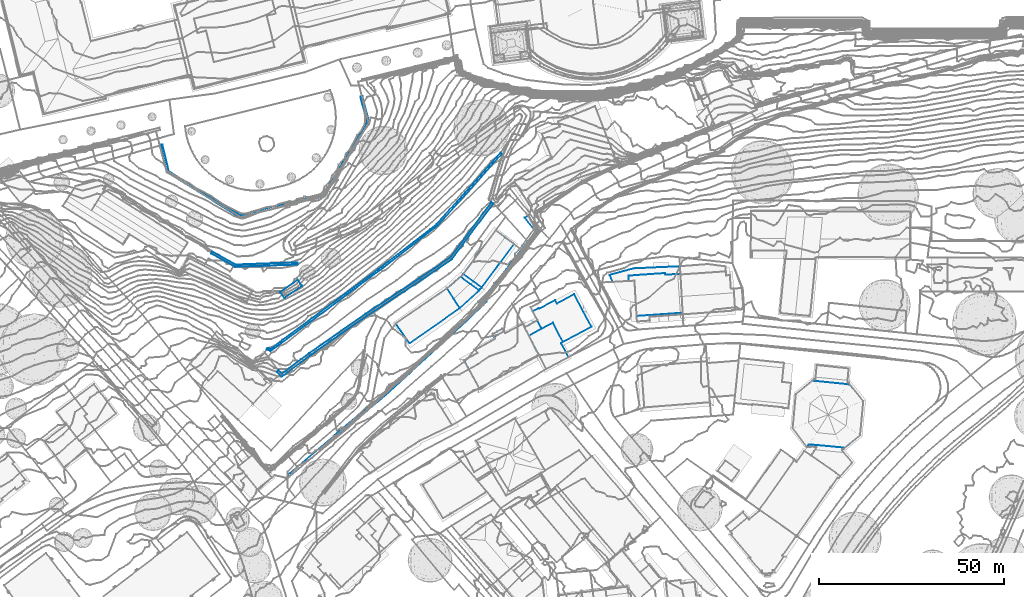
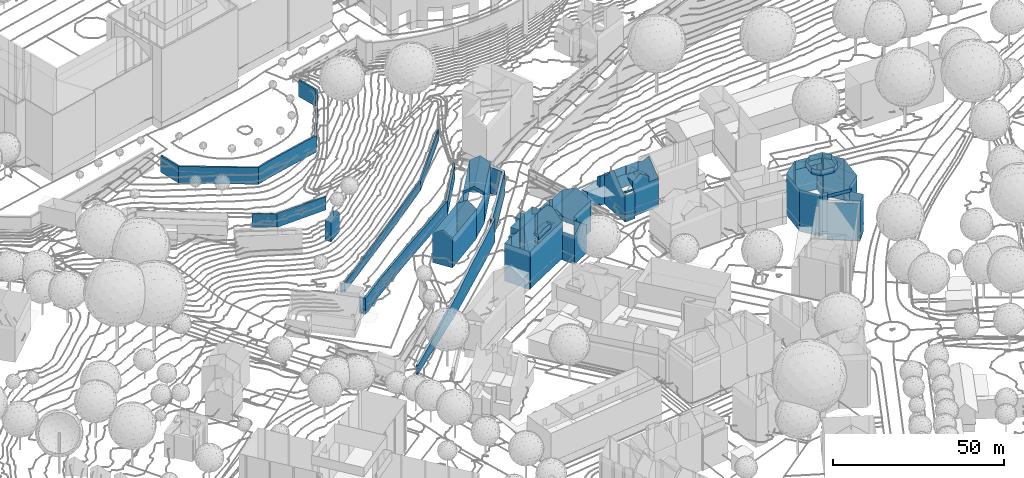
# Not in any storey, part 46 of 494: 12 walls.
"""IFC2X3 model written with IfcOpenShell, lengths in metres."""

import ifcopenshell
import ifcopenshell.guid

model = None  # the IFC model being written
_history = None  # IfcOwnerHistory: only IFC2X3 demands one
_inside = {}  # id of a spatial element -> (the spatial element, [elements in it])
_under = {}  # id of a project, library or spatial element -> (it, [spatial elements below it])
_declared = {}  # id of a project -> (the project, [libraries it declares])
_typed = {}  # id of a type object -> (the type object, [elements of that type])
_made_of = {}  # id of a material, layer set ... -> (it, [elements and type objects made of it])


def new_model(schema):
    """Start an empty IFC model of exactly this schema.

    Asked for "IFC4X3", IfcOpenShell would pick the latest addendum, in which some entities
    have other attributes; the version numbers below select the first issue.
    IFC2X3 requires an IfcOwnerHistory on every rooted entity: one is made here for all.
    """
    global model, _history
    if schema == "IFC4X3":
        model = ifcopenshell.file(schema_version=(4, 3, 0, 0))
    else:
        model = ifcopenshell.file(schema=schema)
    _inside.clear()
    _under.clear()
    _declared.clear()
    _typed.clear()
    _made_of.clear()
    _history = None
    if model.schema == "IFC2X3":
        org = make("IfcOrganization", Name="unknown")
        user = make(
            "IfcPersonAndOrganization",
            ThePerson=make("IfcPerson", FamilyName="unknown"),
            TheOrganization=org,
        )
        app = make(
            "IfcApplication",
            ApplicationDeveloper=org,
            Version="unknown",
            ApplicationFullName="unknown",
            ApplicationIdentifier="unknown",
        )
        _history = make(
            "IfcOwnerHistory",
            OwningUser=user,
            OwningApplication=app,
            ChangeAction="ADDED",
            CreationDate=0,
        )
    return model


def make(cls, **values):
    """One entity of the class cls with the attributes given. An attribute that is None is left unset."""
    return model.create_entity(
        cls, **{name: value for name, value in values.items() if value is not None}
    )


def rooted(cls, **values):
    """An entity with a GlobalId (a new one), such as an element, a storey or a relation."""
    return make(cls, GlobalId=ifcopenshell.guid.new(), OwnerHistory=_history, **values)


def si_unit(unit_type, name, prefix=None):
    """IfcSIUnit, for example si_unit("LENGTHUNIT", "METRE", prefix="MILLI")."""
    return make("IfcSIUnit", UnitType=unit_type, Prefix=prefix, Name=name)


def assignment(units):
    """IfcUnitAssignment: the units of a project."""
    return None if units is None else make("IfcUnitAssignment", Units=units)


def point(xyz):
    """IfcCartesianPoint."""
    return None if xyz is None else make("IfcCartesianPoint", Coordinates=xyz)


def direction(xyz):
    """IfcDirection."""
    return None if xyz is None else make("IfcDirection", DirectionRatios=xyz)


def frame(location, z_axis=None, x_axis=None):
    """IfcAxis2Placement3D, a coordinate frame: its origin and axes. An axis left out is left unset."""
    return make(
        "IfcAxis2Placement3D",
        Location=point(location),
        Axis=direction(z_axis),
        RefDirection=direction(x_axis),
    )


def origin_with_axes():
    """The frame at (0, 0, 0) with the z axis (0, 0, 1) and the x axis (1, 0, 0) written out."""
    return frame((0.0, 0.0, 0.0), z_axis=(0.0, 0.0, 1.0), x_axis=(1.0, 0.0, 0.0))


def place(relative_to, where):
    """IfcLocalPlacement: puts the frame where relative to a parent placement (None: the world)."""
    return make(
        "IfcLocalPlacement", PlacementRelTo=relative_to, RelativePlacement=where
    )


def context(
    kind, dimensions, precision=None, world=None, true_north=None, identifier=None
):
    """IfcGeometricRepresentationContext, for example the 3D "Model" context."""
    return make(
        "IfcGeometricRepresentationContext",
        ContextIdentifier=identifier,
        ContextType=kind,
        CoordinateSpaceDimension=dimensions,
        Precision=precision,
        WorldCoordinateSystem=world,
        TrueNorth=true_north,
    )


def subcontext(parent, identifier, kind, view, scale=None):
    """IfcGeometricRepresentationSubContext, for example "Body" below "Model"."""
    return make(
        "IfcGeometricRepresentationSubContext",
        ContextIdentifier=identifier,
        ContextType=kind,
        ParentContext=parent,
        TargetScale=scale,
        TargetView=view,
    )


def project(units=None, contexts=None):
    """IfcProject with its units and contexts."""
    return rooted(
        "IfcProject",
        Name="project",
        RepresentationContexts=contexts,
        UnitsInContext=assignment(units),
    )


def faces_of(points, faces, orient=None, outer=None):
    """IfcFace entities. A face is a list of loops; a loop is a list of indices into points, from 0.

    orient and outer hold one flag for each loop. By default every Orientation is true, the
    first loop of a face is its IfcFaceOuterBound and the others are IfcFaceBound.
    """
    made = []
    for i, loops in enumerate(faces):
        bounds = []
        for j, loop in enumerate(loops):
            is_outer = j == 0 if outer is None else outer[i][j]
            bounds.append(
                make(
                    "IfcFaceOuterBound" if is_outer else "IfcFaceBound",
                    Bound=make("IfcPolyLoop", Polygon=[points[k] for k in loop]),
                    Orientation=True if orient is None else orient[i][j],
                )
            )
        made.append(make("IfcFace", Bounds=bounds))
    return made


def faceted_brep(points, faces, orient=None, outer=None, voids=None):
    """IfcFacetedBrep: a solid bounded by flat faces; with voids (closed shells), ...WithVoids."""
    shared = [point(p) for p in points]
    hull = make("IfcClosedShell", CfsFaces=faces_of(shared, faces, orient, outer))
    if voids is None:
        return make("IfcFacetedBrep", Outer=hull)
    return make(
        "IfcFacetedBrepWithVoids",
        Outer=hull,
        Voids=[
            make(cls, CfsFaces=faces_of(shared, fs, o, b)) for cls, fs, o, b in voids
        ],
    )


def shape(context_of_items, identifier, shape_type, items):
    """IfcShapeRepresentation: the items that make up one representation, for example the "Body"."""
    return make(
        "IfcShapeRepresentation",
        ContextOfItems=context_of_items,
        RepresentationIdentifier=identifier,
        RepresentationType=shape_type,
        Items=items,
    )


def made_of(thing, what):
    """Note that an element or type object is made of a material, layer set ...; save() writes the relation."""
    if what is not None:
        _made_of.setdefault(what.id(), (what, []))[1].append(thing)
    return thing


def element(
    cls,
    number,
    at=None,
    inside=None,
    cuts=None,
    type_object=None,
    material=None,
    context=None,
    identifier="Body",
    shape_type=None,
    held_by="IfcProductDefinitionShape",
    body=None,
    shapes=None,
    **own,
):
    """One element of the class cls, such as IfcWall. Its Tag is "e" and its number.

    at: its placement. inside: the storey or other place that contains it. cuts: it is an
    opening in that element (IfcRelVoidsElement). A single representation is given by context,
    identifier, shape_type and body (its items); several are given by shapes. held_by: the class
    of the entity that holds the representations. save() writes the other relations.
    """
    e = rooted(cls, Tag="e%d" % number, ObjectPlacement=at, **own)
    if body is not None:
        shapes = [shape(context, identifier, shape_type, body)]
    if shapes is not None:
        e.Representation = make(held_by, Representations=shapes)
    if inside is not None:
        _inside.setdefault(inside.id(), (inside, []))[1].append(e)
    if cuts is not None:
        rooted(
            "IfcRelVoidsElement", RelatingBuildingElement=cuts, RelatedOpeningElement=e
        )
    if type_object is not None:
        _typed.setdefault(type_object.id(), (type_object, []))[1].append(e)
    return made_of(e, material)


def aggregate(whole, parts):
    """IfcRelAggregates: a whole, such as a stair, and the parts it consists of."""
    return rooted("IfcRelAggregates", RelatingObject=whole, RelatedObjects=parts)


def save(model, path):
    """Write the relations noted so far, then the file.

    IfcRelAggregates (storeys below a building ...), IfcRelContainedInSpatialStructure (elements
    in a storey), IfcRelDefinesByType, IfcRelAssociatesMaterial and IfcRelDeclares: one each for
    every whole, place, type object, material and project.
    """
    for whole, parts in _under.values():
        aggregate(whole, parts)
    for where, things in _inside.values():
        rooted(
            "IfcRelContainedInSpatialStructure",
            RelatedElements=things,
            RelatingStructure=where,
        )
    for kind, things in _typed.values():
        rooted("IfcRelDefinesByType", RelatedObjects=things, RelatingType=kind)
    for what, things in _made_of.values():
        rooted("IfcRelAssociatesMaterial", RelatedObjects=things, RelatingMaterial=what)
    for by, libraries in _declared.values():
        rooted("IfcRelDeclares", RelatingContext=by, RelatedDefinitions=libraries)
    model.write(path)


model = new_model("IFC2X3")

# Units and contexts
model_context = context("Model", 3, precision=1e-05, world=origin_with_axes())
body_context = subcontext(model_context, "Body", "Model", "MODEL_VIEW")
ifc_project = project(units=[si_unit("AREAUNIT", "SQUARE_METRE"), si_unit("LENGTHUNIT", "METRE")], contexts=[model_context])

# Walls
wall_1_placement = place(None, frame((211.8297320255, 101.9383160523, 526.7541), z_axis=(0.0, 0.0, 1.0), x_axis=(1.0, 0.0, 0.0)))
element("IfcWall", 1, at=wall_1_placement, Name="Wall 6", context=body_context, shape_type="Brep", body=[
    faceted_brep([(226.2320000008, 193.1942999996, 5.6565), (243.0140000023, 193.7958999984, 5.4645), (226.2320000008, 193.1942999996, 0.835), (226.0840000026, 192.5819999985, 5.6565), (219.6790000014, 196.1660000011, 5.6565), (226.0840000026, 192.5819999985, 0.835), (219.9750000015, 196.6953000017, 5.6565), (219.9750000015, 196.6953000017, 0.835), (219.6790000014, 196.1660000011, 0.835), (243.0360000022, 193.1904000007, 5.4645), (243.0360000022, 193.1904000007, 0.835), (243.0140000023, 193.7958999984, 0.835)], [[[0, 1, 2]], [[3, 4, 5]], [[6, 0, 7]], [[4, 6, 8]], [[9, 5, 10]], [[1, 9, 11]], [[1, 11, 2]], [[4, 8, 5]], [[0, 2, 7]], [[6, 7, 8]], [[3, 5, 9]], [[9, 10, 11]]]),
])
wall_2_placement = place(None, frame((211.8297320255, 101.9383160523, 526.7541), z_axis=(0.0, 0.0, 1.0), x_axis=(1.0, 0.0, 0.0)))
element("IfcWall", 2, at=wall_2_placement, Name="Wall 8", context=body_context, shape_type="Brep", body=[
    faceted_brep([(238.8200000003, 163.7226000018, -10.8929), (246.1209999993, 169.2197000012, -10.9639), (238.8200000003, 163.7226000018, -16.5874), (237.9189999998, 164.6748000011, -10.8929), (237.9189999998, 164.6748000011, -16.5874), (237.4409999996, 164.2217000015, -10.8929), (237.4409999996, 164.2217000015, -16.5874), (238.7470000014, 162.8436999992, -10.8929), (238.7470000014, 162.8436999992, -16.5874), (246.507000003, 168.6854999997, -10.9639), (246.507000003, 168.6854999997, -16.5874), (261.4940000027, 179.8867000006, -11.2489), (246.1209999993, 169.2197000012, -16.5874), (261.8630000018, 179.3418000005, -11.2489), (261.8630000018, 179.3418000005, -16.5874), (276.0890000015, 189.5351000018, -11.3909), (261.4940000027, 179.8867000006, -16.5874), (276.4550000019, 188.9882999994, -11.3909), (276.4550000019, 188.9882999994, -16.5874), (284.3350000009, 195.1387000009, -11.3909), (276.0890000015, 189.5351000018, -16.5874), (284.7970000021, 194.6561999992, -11.3909), (284.7970000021, 194.6561999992, -16.5874), (295.9990000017, 209.7382999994, -10.9639), (295.9990000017, 209.7382999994, -16.5874), (295.4700000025, 210.1308000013, -10.9639), (295.4700000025, 210.1308000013, -16.5874), (284.3350000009, 195.1387000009, -16.5874)], [[[0, 1, 2]], [[3, 0, 4]], [[5, 3, 6]], [[7, 5, 8]], [[9, 8, 10]], [[1, 11, 12]], [[13, 10, 14]], [[11, 15, 16]], [[17, 14, 18]], [[15, 19, 20]], [[21, 17, 22]], [[23, 21, 24]], [[25, 23, 26]], [[19, 26, 27]], [[1, 12, 2]], [[0, 2, 4]], [[3, 4, 6]], [[5, 6, 8]], [[7, 8, 9]], [[11, 16, 12]], [[9, 10, 13]], [[15, 20, 16]], [[13, 14, 17]], [[19, 27, 20]], [[17, 18, 22]], [[21, 22, 24]], [[23, 24, 26]], [[25, 26, 19]]]),
])
wall_3_placement = place(None, frame((211.8297320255, 101.9383160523, 526.7541), z_axis=(0.0, 0.0, 1.0), x_axis=(1.0, 0.0, 0.0)))
element("IfcWall", 3, at=wall_3_placement, Name="Wall 9", context=body_context, shape_type="Brep", body=[
    faceted_brep([(294.1209999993, 183.1347999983, -14.0297), (288.2660000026, 177.4453000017, -14.2136), (294.1209999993, 183.1347000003, -22.4069), (277.4560000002, 167.5439000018, -14.7666), (288.2660000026, 177.4453000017, -22.4069), (277.0140000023, 168.0282999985, -14.7666), (287.8159999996, 177.9228000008, -22.4069), (277.0140000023, 168.0282999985, -22.4069), (266.4130000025, 158.3603000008, -16.1475), (266.4130000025, 158.3603000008, -22.4069), (266.8460000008, 157.8671999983, -16.1475), (277.4560000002, 167.5439000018, -22.4069), (240.8580000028, 135.8594000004, -19.0262), (240.4620000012, 136.3828000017, -22.4069), (240.8580000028, 135.8594000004, -22.4069), (299.9330000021, 191.4316000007, -13.8457), (293.6009999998, 183.6112999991, -14.0297), (299.9330000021, 191.4316000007, -22.4068), (292.7030000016, 183.5439000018, -14.0297), (299.4210000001, 191.8407999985, -22.4068), (292.7030000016, 183.5439000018, -22.4069), (287.8159999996, 177.9228000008, -14.2136), (293.1660000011, 183.120099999, -22.4069), (293.6009999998, 183.6112999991, -22.4069), (293.1660000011, 183.120099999, -14.0297), (307.4979999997, 202.1981999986, -13.5707), (304.5190000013, 205.878899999, -22.4068), (307.4979999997, 202.1981999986, -22.4068), (305.4220000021, 206.5194999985, -12.6478), (308.4230000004, 202.2080000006, -13.5687), (305.4220000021, 206.5194999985, -22.4068), (304.5190000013, 205.878899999, -12.7038), (308.4230000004, 202.2080000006, -22.4068), (299.4210000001, 191.8407999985, -13.8457), (254.4750000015, 148.25, -22.4069), (254.4750000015, 148.25, -17.8053), (240.4620000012, 136.3828000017, -19.0232), (266.8460000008, 157.8671999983, -22.4069), (254.8990000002, 147.7490000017, -22.4069), (254.8990000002, 147.7490000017, -17.8053)], [[[0, 1, 2]], [[1, 3, 4]], [[5, 6, 7]], [[8, 7, 9]], [[3, 10, 11]], [[12, 13, 14]], [[15, 16, 17]], [[18, 19, 20]], [[21, 22, 6]], [[16, 0, 23]], [[24, 18, 22]], [[25, 26, 27]], [[28, 29, 30]], [[31, 30, 26]], [[29, 15, 32]], [[33, 27, 19]], [[34, 13, 35]], [[35, 13, 36]], [[8, 9, 34]], [[8, 34, 35]], [[37, 10, 38]], [[38, 10, 39]], [[39, 14, 38]], [[14, 39, 12]], [[1, 4, 2]], [[3, 11, 4]], [[21, 6, 5]], [[5, 7, 8]], [[10, 37, 11]], [[36, 13, 12]], [[16, 23, 17]], [[33, 19, 18]], [[24, 22, 21]], [[0, 2, 23]], [[18, 20, 22]], [[31, 26, 25]], [[29, 32, 30]], [[28, 30, 31]], [[15, 17, 32]], [[25, 27, 33]]]),
])
wall_4_placement = place(None, frame((211.8297320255, 101.9383160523, 526.7541), z_axis=(0.0, 0.0, 1.0), x_axis=(1.0, 0.0, 0.0)))
element("IfcWall", 4, at=wall_4_placement, Name="Wall 12", context=body_context, shape_type="Brep", body=[
    faceted_brep([(235.6860000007, 170.3574000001, -8.7491), (264.8280000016, 191.9404000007, -11.8918), (235.6860000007, 170.3574000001, -11.8918), (235.7670000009, 169.8007999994, -8.7491), (234.7090000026, 170.1854999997, -8.7491), (235.7670000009, 169.8007999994, -11.8918), (234.8790000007, 170.6504000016, -8.7491), (234.8790000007, 170.6504000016, -11.8918), (234.7090000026, 170.1854999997, -11.8918), (265.126000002, 191.5458999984, -8.3042), (265.126000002, 191.5458999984, -11.8918), (298.3029999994, 223.1532999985, -8.0072), (280.9480000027, 203.7412, -8.3042), (298.3029999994, 223.1532999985, -11.8918), (297.9340000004, 223.4833999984, -8.0072), (297.9340000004, 223.4833999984, -11.8918), (280.6090000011, 204.1055000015, -8.3042), (280.6090000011, 204.1055000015, -11.8918), (280.9480000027, 203.7412, -11.8918), (264.8280000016, 191.9404000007, -8.3042)], [[[0, 1, 2]], [[3, 4, 5]], [[6, 0, 7]], [[4, 6, 8]], [[9, 3, 10]], [[11, 12, 13]], [[14, 11, 15]], [[16, 15, 17]], [[12, 9, 18]], [[19, 16, 1]], [[19, 1, 0]], [[4, 8, 5]], [[0, 2, 7]], [[6, 7, 8]], [[3, 5, 10]], [[12, 18, 13]], [[11, 13, 15]], [[14, 15, 16]], [[9, 10, 18]], [[16, 17, 1]]]),
])
wall_5_placement = place(None, frame((211.8297320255, 101.9383160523, 526.7541), z_axis=(0.0, 0.0, 1.0), x_axis=(1.0, 0.0, 0.0)))
element("IfcWall", 5, at=wall_5_placement, Name="Wall 13", context=body_context, shape_type="Brep", body=[
    faceted_brep([(205.9340000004, 225.5936999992, 13.5628), (206.4830000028, 225.7226000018, 13.5628), (205.9340000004, 225.5936999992, 7.5874), (207.700000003, 218.0762000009, 13.5628), (207.700000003, 218.0762000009, 7.5874), (227.5439999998, 205.8671999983, 13.5628), (227.5439999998, 205.8671999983, 7.5874), (231.375, 207.0731999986, 13.5628), (231.375, 207.0731999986, 7.5874), (238.9260000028, 208.9228000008, 13.5628), (238.9260000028, 208.9228000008, 7.5874), (246.5879999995, 210.7558000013, 13.5628), (246.5879999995, 210.7558000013, 7.5874), (250.3399999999, 211.5986000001, 13.5628), (250.3399999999, 211.5986000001, 7.5874), (255.6390000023, 220.4023000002, 13.5628), (255.6390000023, 220.4023000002, 7.5874), (262.4620000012, 231.6669999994, 13.5628), (262.4620000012, 231.6669999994, 7.5874), (260.5860000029, 238.8203000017, 13.5628), (260.5860000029, 238.8203000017, 7.5874), (260.0400000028, 238.6777000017, 13.5628), (260.0400000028, 238.6777000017, 7.5874), (261.8560000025, 231.7558000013, 13.5628), (261.8560000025, 231.7558000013, 7.5874), (255.1559999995, 220.6933000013, 13.5628), (255.1559999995, 220.6933000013, 7.5874), (249.9810000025, 212.0956999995, 13.5628), (249.9810000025, 212.0956999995, 7.5874), (246.4610000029, 211.3055999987, 13.5628), (246.4610000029, 211.3057000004, 7.5874), (238.7939999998, 209.4706999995, 13.5628), (238.7939999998, 209.4706999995, 7.5874), (231.2230000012, 207.6162, 13.5628), (231.2230000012, 207.6162, 7.5874), (227.620000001, 206.4824000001, 13.5628), (227.620000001, 206.4824000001, 7.5874), (208.1950000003, 218.4345999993, 13.5628), (208.1950000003, 218.4345999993, 7.5874), (206.4830000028, 225.7226000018, 7.5874)], [[[0, 1, 2]], [[3, 0, 4]], [[5, 3, 6]], [[7, 5, 8]], [[9, 7, 10]], [[11, 9, 12]], [[13, 11, 14]], [[15, 13, 16]], [[17, 15, 18]], [[19, 17, 20]], [[21, 19, 22]], [[23, 21, 24]], [[25, 23, 26]], [[27, 25, 28]], [[29, 27, 30]], [[31, 29, 32]], [[33, 31, 34]], [[35, 33, 36]], [[37, 35, 38]], [[1, 37, 39]], [[1, 39, 2]], [[0, 2, 4]], [[3, 4, 6]], [[5, 6, 8]], [[7, 8, 10]], [[9, 10, 12]], [[11, 12, 14]], [[13, 14, 16]], [[15, 16, 18]], [[17, 18, 20]], [[19, 20, 22]], [[21, 22, 24]], [[23, 24, 26]], [[25, 26, 28]], [[27, 28, 30]], [[29, 30, 32]], [[31, 32, 34]], [[33, 34, 36]], [[35, 36, 38]], [[37, 38, 39]]]),
])
wall_6_placement = place(None, frame((450.1807320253, 287.7430160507, 522.8345), z_axis=(0.0, 0.0, 1.0), x_axis=(1.0, 0.0, 0.0)))
element("IfcWall", 6, at=wall_6_placement, Name="Wall 0", context=body_context, shape_type="Brep", body=[
    faceted_brep([(4.745000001, 3.2754000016, 6.9984), (5.8729999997, 1.6406000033, 6.9984), (4.745000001, 3.2754000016, 0.0), (0.0, 0.0, 6.9984), (0.0, 0.0, 0.0), (1.120000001, -1.6415999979, 6.9984), (1.120000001, -1.6415999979, 0.0), (5.8729999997, 1.6406000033, 0.0)], [[[0, 1, 2]], [[3, 0, 4]], [[5, 3, 6]], [[1, 5, 7]], [[1, 7, 2]], [[0, 2, 4]], [[3, 4, 6]], [[5, 6, 7]]]),
])
wall_7_placement = place(None, frame((495.292732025, 288.7264160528, 509.5088), z_axis=(0.0, 0.0, 1.0), x_axis=(1.0, 0.0, 0.0)))
element("IfcWall", 7, at=wall_7_placement, Name="Wall 0", context=body_context, shape_type="Brep", body=[
    faceted_brep([(13.1390000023, 15.6396000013, 11.3829), (15.6520000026, 13.7753999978, 13.2887), (18.0950000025, 11.9628999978, 11.3319), (18.0950000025, 11.9628999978, 0.033), (13.1390000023, 15.6396000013, 0.033), (8.6700000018, -0.5927999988, 10.19), (8.6700000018, -0.5927999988, 11.4649), (6.381000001, 1.0790999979, 12.1268), (6.381000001, 1.0790999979, 13.2887), (6.1500000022, 1.2479999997, 12.3218), (3.643000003, 3.0780999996, 11.2239), (3.643000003, 3.0780999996, 10.244), (9.0329999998, -0.2578999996, 0.0), (9.0329999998, -0.2578000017, 11.4039), (3.4780000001, -5.3946000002, 10.221), (3.4780000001, -5.3946000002, 0.0), (4.3840000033, 3.8319999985, 0.0), (4.1290000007, 3.4891999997, 0.0), (4.3840000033, 3.8319999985, 0.033), (4.1290000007, 3.4891999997, 11.3149), (0.0, 0.0, 0.0), (0.0, 0.0, 10.078), (9.3670000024, 0.1933000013, 0.033), (9.3670000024, 0.1933000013, 0.0), (1.813000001, -2.8125, 12.3218), (6.9270000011, 1.9765000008, 0.033)], [[[0, 1, 2]], [[3, 4, 0]], [[3, 0, 2]], [[5, 6, 7]], [[7, 6, 8]], [[9, 8, 10]], [[8, 9, 7]], [[11, 9, 10]], [[12, 13, 5]], [[5, 13, 6]], [[12, 5, 14]], [[14, 15, 12]], [[16, 17, 18]], [[18, 17, 19]], [[18, 0, 4]], [[0, 18, 19]], [[20, 21, 17]], [[17, 21, 11]], [[11, 10, 19]], [[11, 19, 17]], [[3, 2, 22]], [[22, 2, 13]], [[22, 12, 23]], [[12, 22, 13]], [[20, 15, 14]], [[14, 24, 21]], [[14, 21, 20]], [[16, 18, 25]], [[25, 23, 16]], [[23, 25, 22]]]),
])
wall_8_placement = place(None, frame((481.4457320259, 279.2078160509, 509.1578), z_axis=(0.0, 0.0, 1.0), x_axis=(1.0, 0.0, 0.0)))
element("IfcWall", 8, at=wall_8_placement, Name="Wall 0", context=body_context, shape_type="Brep", body=[
    faceted_brep([(3.6920000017, -5.3563999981, 0.0), (17.3249999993, 4.1240000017, 10.531), (3.6920000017, -5.3563999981, 10.606), (17.3249999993, 4.1240000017, 0.0), (15.6600000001, 6.7061000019, 12.6728), (15.6600000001, 6.7061000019, 0.0), (2.0109999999, -2.9179999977, 12.6728), (0.0, 0.0, 0.0), (0.7540000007, -1.0936999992, 11.2309), (0.0, 0.0, 10.366), (13.8469999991, 9.5186000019, 10.497), (13.8469999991, 9.5186000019, 0.0)], [[[0, 1, 2]], [[1, 0, 3]], [[4, 3, 5]], [[3, 4, 1]], [[0, 2, 6]], [[6, 7, 0]], [[6, 8, 7]], [[8, 9, 7]], [[5, 10, 4]], [[5, 11, 10]], [[7, 10, 11]], [[10, 7, 9]]]),
])
wall_9_placement = place(None, frame((499.9197320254, 269.244916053, 502.2044), z_axis=(0.0, 0.0, 1.0), x_axis=(1.0, 0.0, 0.0)))
element("IfcWall", 9, at=wall_9_placement, Name="Wall 0", context=body_context, shape_type="Brep", body=[
    faceted_brep([(7.7820000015, 7.0273999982, 15.5725), (7.8949999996, 7.1777999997, 15.5725), (7.7820000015, 7.0273999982, 0.4), (10.3330000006, 8.5137000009, 15.5725), (10.4600000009, 8.5225000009, 0.4), (10.3330000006, 8.5137000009, 0.4), (16.5360000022, 9.0126999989, 0.0), (16.5360000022, 9.0126999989, 13.4687), (16.3690000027, 8.9219000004, 0.0), (16.3690000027, 8.9219000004, 10.1021), (16.3690000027, 8.9219000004, 13.4687), (16.3690000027, 8.9219000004, 6.7344), (16.3690000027, 8.9219000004, 3.3667), (16.0329999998, 9.9794999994, 12.8848), (16.0329999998, 9.9794999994, 9.5171), (0.0, 0.0, 6.6864), (3.6400000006, 1.9873000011, 0.0), (0.0, 0.0, 0.0), (3.6400000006, 1.9873000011, 3.3437), (0.0, 0.0, 13.3738), (3.6400000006, 1.9873000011, 8.3582), (4.2060000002, -7.6269000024, 9.9341), (4.6339999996, -7.3885999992, 13.2487), (4.2060000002, -7.6269000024, 13.2458), (4.2060000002, -7.6269000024, 6.6214), (4.6339999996, -7.3885999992, 0.0), (4.2060000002, -7.6269000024, 0.0), (4.2060000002, -7.6269000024, 3.3087), (4.5670000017, -7.2655999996, 0.0), (4.5670000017, -7.2655999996, 13.3537), (20.3120000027, 1.3476999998, 13.3597), (16.3729999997, -0.807599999, 13.3577), (20.3120000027, 1.3476999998, 10.0191), (20.3120000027, 1.3476999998, 6.6794), (20.3120000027, 1.3476999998, 3.3397), (20.3120000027, 1.3476999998, 0.0), (15.313000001, -0.7479999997, 15.6525), (15.313000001, -0.7479999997, 13.8337), (14.569000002, 0.6152999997, 15.6525), (9.2140000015, -4.0820000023, 15.6545), (8.4680000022, -2.7177999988, 15.6545), (9.2140000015, -4.0820000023, 13.8317), (14.7790000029, 9.2998000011, 12.8818), (14.7790000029, 9.2998000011, 15.6255), (15.4880000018, 8.0029999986, 13.6747), (15.4880000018, 8.0029999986, 15.6255), (16.2340000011, 6.6358000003, 15.6255), (11.1229999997, 7.3193999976, 15.6535), (14.6449999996, 9.2276000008, 15.6585), (11.1229999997, 7.3193999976, 0.0), (16.0329999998, 9.9794999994, 0.0), (10.8530000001, 7.808600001, 0.4), (8.1720000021, 6.3427999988, 0.0), (8.1720000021, 6.3427999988, 0.4), (3.3520000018, 2.5077999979, 12.9308), (3.132000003, 2.9063000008, 12.9288), (3.6400000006, 1.9873000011, 13.3738), (3.132000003, 2.9063000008, 0.0), (3.3520000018, 2.5077999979, 0.0), (3.2369999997, 2.9638999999, 0.0), (4.1110000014, 3.4433999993, 12.9888), (8.4600000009, 5.8359999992, 0.0), (4.2719999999, 3.5331999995, 15.6645), (4.1110000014, 3.4433999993, 15.6255), (8.4600000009, 5.8359999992, 15.6615), (3.2369999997, 2.9638999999, 12.9908), (16.5460000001, 8.5821000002, 13.6747), (17.8159999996, 6.1415999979, 17.1194), (18.7440000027, 4.3603999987, 17.1594), (20.1170000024, 1.7226999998, 13.6747), (17.8159999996, 6.1415999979, 0.0), (18.7440000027, 4.3603999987, 0.0), (4.0800000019, -7.3993999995, 0.0), (0.0260000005, -0.0469000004, 13.4137), (4.0800000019, -7.3993999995, 13.4397), (13.2960000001, -1.8515000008, 13.8327), (11.1680000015, -3.0146000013, 13.8327), (13.2960000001, -1.8515000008, 15.8995), (11.1680000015, -3.0146000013, 15.8995), (10.4600000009, 8.5225000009, 15.5725), (10.8540000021, 7.808600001, 0.0), (10.7530000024, 7.9912, 15.6455), (11.1090000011, 7.3447000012, 15.6445), (8.4400000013, 5.871100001, 15.6485), (8.0720000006, 6.5175999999, 15.6465), (5.5560000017, 0.8007999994, 15.6255), (4.8090000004, 2.1679999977, 15.6255), (4.8090000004, 2.1679999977, 13.6747), (4.4690000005, 2.7881000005, 13.5107), (4.7039999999, 2.3583999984, 13.5117), (4.620000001, 2.5117000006, 15.6255), (4.3800000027, 2.9512000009, 15.6255), (8.2200000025, 7.3554999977, 15.5935), (8.9860000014, 7.7753999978, 0.4), (7.8949999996, 7.1777999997, 0.4), (9.0650000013, 7.8183999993, 15.6205), (9.9110000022, 8.2831999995, 15.5995), (9.9110000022, 8.2831999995, 0.4)], [[[0, 1, 2]], [[3, 4, 5]], [[6, 7, 8]], [[9, 7, 10]], [[11, 7, 9]], [[12, 8, 7]], [[13, 6, 14]], [[13, 7, 6]], [[15, 16, 17]], [[18, 19, 20]], [[21, 22, 23]], [[24, 22, 21]], [[25, 22, 26]], [[27, 26, 22]], [[28, 29, 25]], [[22, 25, 29]], [[30, 31, 32]], [[32, 31, 33]], [[34, 28, 35]], [[28, 34, 31]], [[28, 31, 29]], [[36, 37, 38]], [[39, 40, 41]], [[42, 43, 44]], [[44, 45, 46]], [[45, 44, 43]], [[42, 47, 48]], [[42, 49, 47]], [[48, 43, 42]], [[42, 13, 14]], [[50, 49, 14]], [[49, 42, 14]], [[51, 52, 53]], [[54, 55, 20]], [[20, 56, 54]], [[18, 20, 57]], [[58, 16, 18]], [[57, 58, 18]], [[20, 55, 57]], [[59, 57, 60]], [[60, 61, 59]], [[60, 57, 55]], [[62, 60, 63]], [[60, 62, 64]], [[60, 64, 61]], [[65, 60, 55]], [[66, 67, 68]], [[66, 68, 69]], [[69, 32, 9]], [[10, 66, 9]], [[69, 9, 66]], [[9, 32, 11]], [[11, 33, 12]], [[32, 69, 30]], [[33, 70, 12]], [[33, 34, 70]], [[34, 71, 70]], [[71, 34, 35]], [[70, 8, 12]], [[11, 32, 33]], [[19, 27, 24]], [[15, 72, 27]], [[72, 26, 27]], [[15, 17, 72]], [[24, 21, 73]], [[74, 73, 21]], [[73, 19, 24]], [[27, 19, 15]], [[74, 21, 23]], [[75, 36, 76]], [[37, 36, 75]], [[36, 77, 76]], [[78, 39, 41]], [[76, 77, 41]], [[41, 77, 78]], [[51, 4, 79]], [[80, 51, 49]], [[79, 81, 49]], [[49, 82, 47]], [[82, 49, 81]], [[79, 49, 51]], [[83, 84, 53]], [[64, 83, 61]], [[84, 0, 53]], [[61, 53, 52]], [[53, 61, 83]], [[2, 53, 0]], [[85, 86, 87]], [[87, 88, 89]], [[87, 86, 90]], [[91, 63, 88]], [[91, 88, 87]], [[88, 63, 60]], [[91, 87, 90]], [[1, 92, 93]], [[1, 93, 94]], [[92, 95, 93]], [[95, 96, 5]], [[95, 5, 97]], [[5, 96, 3]], [[95, 97, 93]], [[1, 94, 2]], [[79, 4, 3]], [[11, 12, 7]], [[50, 14, 6]], [[19, 16, 15]], [[56, 20, 19]], [[16, 19, 18]], [[24, 27, 22]], [[31, 34, 33]], [[80, 52, 51]]]),
])
wall_10_placement = place(None, frame((516.2887320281, 278.1668160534, 502.5014), z_axis=(0.0, 0.0, 1.0), x_axis=(1.0, 0.0, 0.0)))
element("IfcWall", 10, at=wall_10_placement, Name="Wall 0", context=body_context, shape_type="Brep", body=[
    faceted_brep([(10.2819999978, -5.0225000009, 10.051), (9.3259999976, -5.5234000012, 10.051), (10.2819999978, -5.0225000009, 9.2251), (13.4129999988, 8.9375, 8.0422), (8.7839999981, 6.4756000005, -0.154), (13.4129999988, 8.9375, 10.781), (13.4129999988, 8.9375, 5.3045), (8.3099999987, 7.3682000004, -0.154), (8.3099999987, 7.3682000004, 10.222), (3.8789999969, 5.0106999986, 10.239), (3.8789999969, 5.0106999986, -0.154), (3.7859999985, 5.1845999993, 10.126), (3.7859999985, 5.1845999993, -0.154), (2.1789999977, 4.365199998, 10.115), (2.1789999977, 4.365199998, -0.154), (4.3559999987, -1.4414000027, 11.7619), (1.5229999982, -2.9248000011, 9.946), (1.5229999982, -2.9248000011, 9.3941), (4.618999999, -0.379900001, -0.154), (4.618999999, -0.379900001, 0.0), (4.4609999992, -0.0459000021, 0.0), (4.4599999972, -0.0439000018, -0.154), (3.3990000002, 1.8612999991, 0.0), (3.3990000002, 1.8612999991, -0.154), (4.4599999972, -0.0439000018, 12.9518), (3.7729999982, 1.1884999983, 12.1458), (4.4599999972, -0.0439000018, 12.1748), (4.9689999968, -1.1201000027, 12.1548), (4.493999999, -1.3691000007, 11.8499), (4.9689999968, -1.1201000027, 11.4399), (7.6559999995, 1.2793000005, -0.154), (10.3880000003, -3.9326000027, -0.8259), (7.6559999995, 1.2793000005, -0.8259), (9.8539999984, -4.2168000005, 10.602), (9.8539999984, -4.2168000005, -0.8259), (11.9019999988, -8.0692999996, 9.2091), (11.9019999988, -8.0692999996, -0.8259), (18.0879999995, 0.1620999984, 10.636), (10.3880000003, -3.9326000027, -0.154), (18.0879999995, 0.1620999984, -0.154), (15.7559999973, 4.5341999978, 13.6317), (15.7559999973, 4.5341999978, -0.154), (13.4129999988, 8.9375, -0.154), (6.4469999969, -4.2402000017, 11.5469), (5.4629999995, -2.1631000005, 12.9348), (2.7630000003, 1.5126999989, 0.0), (0.0, 0.0, 9.9311), (3.4849999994, 1.9081999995, 4.2936), (0.0, 0.0, 0.0), (3.4849999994, 1.9081999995, -0.154), (3.4849999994, 1.9081999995, 8.7402), (2.7630000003, 1.5126999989, 11.7189), (3.3990000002, 1.8612999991, 11.7059), (3.4849999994, 1.9081999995, 11.7049), (1.1769999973, -2.2607000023, 0.0), (5.8829999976, -11.2988000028, 9.3751), (5.8829999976, -11.2988000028, -0.8259), (1.1769999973, -2.2607000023, -0.8259), (8.8449999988, -9.7090000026, 11.8638), (8.8449999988, -9.7090000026, -0.8259), (4.1030000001, -0.6621000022, 11.8639), (4.1219999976, -0.6523000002, 11.8469), (3.9560000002, -0.7422000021, 11.7399), (4.1030000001, -0.6621000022, -0.8259), (8.7839999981, 6.4756000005, 10.799)], [[[0, 1, 2]], [[3, 4, 5]], [[6, 4, 3]], [[7, 8, 4]], [[9, 8, 7]], [[10, 9, 7]], [[11, 9, 12]], [[12, 9, 10]], [[13, 12, 14]], [[15, 16, 17]], [[18, 19, 20]], [[20, 21, 18]], [[20, 22, 23]], [[20, 23, 21]], [[24, 25, 26]], [[27, 28, 29]], [[30, 31, 32]], [[33, 0, 2]], [[33, 2, 34]], [[35, 36, 34]], [[35, 34, 2]], [[37, 38, 39]], [[38, 37, 33]], [[38, 34, 31]], [[34, 38, 33]], [[5, 40, 3]], [[37, 6, 3]], [[3, 40, 37]], [[37, 39, 41]], [[42, 6, 41]], [[41, 6, 37]], [[43, 44, 27]], [[27, 24, 26]], [[24, 27, 44]], [[27, 29, 43]], [[45, 46, 47]], [[46, 45, 48]], [[45, 47, 22]], [[23, 22, 49]], [[49, 22, 47]], [[50, 46, 51]], [[50, 51, 52]], [[46, 50, 47]], [[50, 52, 53]], [[54, 55, 17]], [[55, 54, 56]], [[16, 46, 17]], [[17, 48, 54]], [[48, 17, 46]], [[54, 57, 56]], [[35, 58, 55]], [[35, 55, 59]], [[35, 59, 36]], [[59, 55, 56]], [[60, 61, 62]], [[63, 54, 18]], [[54, 63, 57]], [[19, 18, 54]], [[30, 32, 18]], [[18, 32, 63]], [[4, 64, 5]], [[42, 4, 6]], [[4, 8, 64]], [[11, 12, 13]], [[53, 13, 50]], [[47, 50, 13]], [[13, 49, 47]], [[13, 14, 49]], [[38, 31, 30]]]),
])
wall_11_placement = place(None, frame((539.2757320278, 292.3553160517, 501.0115), z_axis=(0.0, 0.0, 1.0), x_axis=(1.0, 0.0, 0.0)))
element("IfcWall", 11, at=wall_11_placement, Name="Wall 0", context=body_context, shape_type="Brep", body=[
    faceted_brep([(16.3579999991, -8.6992000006, 11.3619), (16.5139999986, -10.9443999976, 11.3619), (16.5139999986, -10.9443999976, 9.5181), (10.686999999, -11.371100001, 9.4991), (10.686999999, -11.371100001, 11.8969), (10.5289999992, -9.1026000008, 11.3619), (10.4959999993, -8.620099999, 11.8969), (10.9379999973, -12.3887000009, 8.8042), (7.430999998, -12.6279999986, 8.8042), (10.9379999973, -12.3887000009, -0.6799), (7.3399999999, -11.1230999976, -0.6719), (19.8090000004, -10.2588, -0.6719), (7.3399999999, -11.1230999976, -0.6799), (15.112999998, 0.0155999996, 0.0), (19.2049999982, 0.2987999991, 0.0), (15.112999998, 0.0155999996, -0.6719), (15.0810000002, 0.4803999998, 8.8612), (15.112999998, 0.0155999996, 5.8745), (15.0810000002, 0.4803999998, 5.8745), (5.1039999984, -0.2100000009, 0.0), (15.0810000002, 0.4803999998, 0.0), (5.1039999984, -0.2100000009, -0.6719), (5.2049999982, -1.6728999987, -0.6719), (5.2049999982, -1.6728999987, 0.0), (0.0, 0.0, 5.8745), (6.5359999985, 1.754900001, 5.8745), (0.0, 0.0, 0.0), (0.9129999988, -1.9081999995, 5.8745), (0.9129999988, -1.9081999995, 0.0), (15.112999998, 0.0155999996, 9.1272), (19.2049999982, 0.2987999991, 9.1271), (15.0810000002, 0.4803999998, -0.6719), (5.1039999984, -0.2100000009, 8.8612), (5.1039999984, -0.2100000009, 5.8745), (5.2049999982, -1.6728999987, 9.6951), (5.2049999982, -1.6728999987, 5.8745), (7.7969999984, -11.6367000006, 9.4461), (7.8519999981, -12.4189999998, 8.8042), (7.7969999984, -11.6367000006, 8.8042), (10.867999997, -11.4239000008, 9.4461), (10.867999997, -11.4239000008, 8.8042), (10.862999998, -11.3583999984, 9.5001), (10.862999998, -11.3583999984, -0.6799), (13.3259999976, -11.1787, 13.7327), (19.8339999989, -10.7012000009, 9.5291), (19.8339999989, -10.7012000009, -0.6799), (11.5989999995, 1.9844000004, 5.8745), (11.5989999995, 1.9844000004, 0.0), (16.0590000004, 2.1865000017, 0.0), (19.0889999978, 2.3242000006, 5.8745), (19.0889999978, 2.3242000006, 0.0), (16.0590000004, 2.1865000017, 5.8745), (6.7630000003, -1.5878999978, 9.7081), (6.7630000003, -1.5878999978, 5.8745), (6.7630000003, -1.5878999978, -0.6719), (19.2049999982, 0.2987999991, 5.8745), (19.3189999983, -1.692400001, 10.261), (19.3189999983, -1.692400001, -0.6719), (19.5439999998, -5.629900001, -0.6719), (19.2049999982, 0.2987999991, -0.6719), (19.7060000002, -8.4677999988, 11.3619), (19.5439999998, -5.629900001, 14.5066), (19.7060000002, -8.4677999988, -0.6719), (19.8090000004, -10.2588, -0.6799), (7.4199999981, -12.4483000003, 8.8042), (7.430999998, -12.6279999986, -0.6799), (7.231999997, -9.3310999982, -0.6719), (7.231999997, -9.3310999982, 11.3619), (7.0599999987, -6.4941999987, 14.5066), (6.8220000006, -2.557599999, 10.261), (6.8220000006, -2.557599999, -0.6719), (7.0599999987, -6.4941999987, -0.6719), (6.5359999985, 1.754900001, 0.0)], [[[0, 1, 2]], [[3, 4, 5]], [[6, 5, 4]], [[7, 8, 9]], [[10, 11, 12]], [[13, 14, 15]], [[16, 17, 18]], [[19, 20, 21]], [[22, 23, 21]], [[19, 21, 23]], [[24, 25, 26]], [[27, 24, 28]], [[29, 30, 17]], [[20, 13, 31]], [[32, 16, 33]], [[34, 32, 35]], [[36, 37, 38]], [[39, 36, 40]], [[41, 40, 42]], [[40, 41, 39]], [[42, 40, 9]], [[7, 9, 40]], [[1, 43, 2]], [[44, 2, 45]], [[42, 45, 2]], [[2, 43, 41]], [[3, 41, 4]], [[41, 42, 2]], [[4, 41, 43]], [[46, 47, 25]], [[47, 46, 48]], [[49, 50, 51]], [[52, 34, 53]], [[35, 54, 53]], [[35, 53, 34]], [[35, 27, 23]], [[28, 23, 27]], [[22, 54, 23]], [[23, 54, 35]], [[55, 50, 49]], [[30, 56, 55]], [[57, 55, 58]], [[14, 57, 59]], [[57, 14, 55]], [[55, 56, 58]], [[60, 56, 61]], [[56, 60, 58]], [[60, 44, 58]], [[58, 44, 62]], [[11, 62, 44]], [[45, 63, 11]], [[11, 44, 45]], [[10, 8, 64]], [[8, 10, 65]], [[12, 65, 10]], [[10, 64, 66]], [[64, 67, 66]], [[67, 68, 69]], [[67, 69, 53]], [[53, 69, 52]], [[70, 71, 53]], [[53, 54, 70]], [[71, 67, 53]], [[67, 71, 66]], [[8, 65, 9]], [[11, 63, 12]], [[14, 59, 15]], [[29, 17, 16]], [[20, 31, 21]], [[25, 72, 26]], [[24, 26, 28]], [[30, 55, 17]], [[13, 15, 31]], [[16, 18, 33]], [[32, 33, 35]], [[36, 38, 40]], [[47, 72, 25]], [[46, 51, 48]], [[50, 48, 51]], [[14, 50, 55]]]),
])
wall_12_placement = place(None, frame((588.8407320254, 250.8973160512, 499.7896), z_axis=(0.0, 0.0, 1.0), x_axis=(1.0, 0.0, 0.0)))
element("IfcWall", 12, at=wall_12_placement, Name="Wall 0", context=body_context, shape_type="Brep", body=[
    faceted_brep([(13.7360000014, -6.4062999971, 14.4895), (13.5470000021, -6.5615999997, 13.3107), (13.7360000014, -6.4062999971, 13.3107), (13.5470000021, -6.5615999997, 14.4895), (6.0769999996, -5.8183999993, 14.4895), (6.2010000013, 13.826100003, 14.4896), (14.8599999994, 12.9668000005, 11.2529), (6.2010000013, 13.826100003, 11.2529), (0.0, 0.0, 14.8255), (0.2129999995, 2.2910000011, 14.8175), (0.0, 0.0, 0.0), (0.6390000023, 6.8729999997, 14.8025), (0.8520000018, 9.1640000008, 0.0), (0.8520000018, 9.1640000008, 14.7955), (12.8790000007, -12.995199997, 13.3106), (4.9570000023, -7.4659000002, 13.3107), (12.8790000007, -12.995099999, -0.0301), (16.0960000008, -9.3554999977, 13.3106), (16.0960000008, -9.3554999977, -0.0301), (13.5810000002, -5.2665999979, -0.0001), (13.8210000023, -5.5605999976, -0.0001), (13.5810000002, -5.2665999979, -0.0301), (4.3619999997, -4.4081999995, -0.0001), (4.3619999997, -4.4081999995, -0.0301), (3.882000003, -5.0859999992, -0.0001), (3.882000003, -5.0859999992, -0.0301), (15.1290000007, 16.1053999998, 10.237), (15.1290000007, 16.1053999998, -0.02), (6.4900000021, 17.0428999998, 10.211), (6.4900000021, 17.0428999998, -0.02), (5.3949999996, 12.8047000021, -0.02), (5.3949999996, 12.8047000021, 0.0), (5.4030000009, 12.8808000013, -0.02), (5.4030000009, 12.8808000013, 0.0), (15.2550000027, 11.8242000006, 0.0001), (15.2550000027, 11.8242000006, -0.0199), (15.2780000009, 12.0604999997, -0.02), (15.2780000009, 12.0604999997, 0.0), (6.7950000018, 0.0390000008, 17.4073), (5.2110000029, 1.9726000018, 18.2732), (5.4480000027, 1.683600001, 17.4073), (5.2110000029, 1.9726000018, 19.4041), (5.2110000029, 1.9715999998, 17.4063), (7.0270000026, -0.245099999, 17.4063), (7.0280000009, -0.245199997, 17.9062), (13.4510000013, 1.1523000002, 17.9052), (13.1730000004, 0.9248000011, 17.4063), (13.4510000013, 1.1513000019, 17.4063), (13.4510000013, 1.1523000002, 19.4031), (11.5350000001, -0.4179999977, 17.4063), (11.2349999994, -0.6631000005, 19.4031), (11.2349999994, -0.6631000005, 17.4063), (5.6290000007, 6.1797000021, 19.4031), (5.9330000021, 6.4287, 17.4063), (5.6290000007, 6.1797000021, 17.9052), (5.6290000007, 6.1797000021, 17.4063), (7.8470000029, 7.9941000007, 18.0122), (7.5659999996, 7.7646000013, 17.4073), (7.8460000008, 7.9941000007, 17.4063), (12.0540000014, 7.576100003, 19.4031), (13.8690000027, 5.3603000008, 19.4031), (12.3080000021, 7.2666000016, 17.4063), (13.8690000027, 5.3603000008, 17.9052), (13.6420000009, 5.6377000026, 17.4063), (13.8690000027, 5.3603000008, 17.4063), (19.0940000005, 7.3125, 0.0001), (19.0940000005, 7.3125, 14.8176), (18.2360000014, -1.9257999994, 14.7866), (18.2330000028, -1.9589999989, 14.7756), (18.2330000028, -1.9589999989, 0.0), (13.3599999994, -5.9365999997, 14.7805), (13.3599999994, -5.9365999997, -0.0301), (13.8210000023, -5.5605999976, -0.0301), (6.4990000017, -5.1972999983, -0.0301), (6.4990000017, -5.1972999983, 14.8305), (4.8350000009, -4.9814999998, -0.0301), (4.8350000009, -4.9814999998, 14.8565), (4.9570000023, -7.4659000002, -0.0301), (6.0769999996, -5.8183999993, 13.3107), (6.1400000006, 13.1533000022, 14.8385), (6.1400000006, 13.1533000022, -0.02), (5.7809999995, 13.1895000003, -0.02), (5.7809999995, 13.1894000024, 14.8285), (5.8110000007, 13.1865000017, 14.8385), (14.8020000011, 12.2890000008, -0.02), (14.8020000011, 12.2890000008, 14.8405), (15.068, 12.2627000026, 14.8405), (15.120000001, 12.2578000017, 14.8235), (15.120000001, 12.2578000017, -0.02), (14.8599999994, 12.9668000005, 14.4896), (3.882000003, -5.0859999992, 14.7445), (0.0419999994, -0.0546999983, 14.8505), (4.7740000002, -5.182599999, -0.0301), (4.7740000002, -5.182699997, 14.7505), (3.9110000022, -5.0888999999, 14.7545), (0.9120000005, 9.2138000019, 14.8235), (19.0350000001, 7.3857000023, 14.8516), (7.1040000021, -0.253899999, 19.4311), (11.1570000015, -0.6552999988, 17.4063), (7.0280000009, -0.245199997, 19.4041), (11.1570000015, -0.6552999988, 19.4311), (7.1040000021, -0.253899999, 17.4063), (5.2190000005, 2.0488000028, 19.4311), (5.2190000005, 2.0488000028, 17.4063), (5.6210000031, 6.1025000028, 19.4311), (5.6210000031, 6.1025000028, 17.4063), (7.8470000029, 7.9941000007, 19.4041), (7.9230000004, 7.9863000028, 19.4311), (7.9230000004, 7.9863000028, 17.4063), (11.9770000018, 7.5840000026, 17.4063), (12.0540000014, 7.576100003, 17.4063), (11.9770000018, 7.5840000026, 19.4311), (13.8610000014, 5.2822000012, 17.4063), (13.4591000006, 1.2294999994, 19.4311), (13.8610000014, 5.2822000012, 19.4311), (13.4590000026, 1.2294999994, 17.4063)], [[[0, 1, 2]], [[3, 4, 1]], [[5, 6, 7]], [[8, 9, 10]], [[11, 12, 10]], [[12, 11, 13]], [[14, 15, 16]], [[17, 14, 18]], [[19, 20, 21]], [[22, 19, 23]], [[24, 22, 25]], [[26, 27, 28]], [[29, 28, 27]], [[30, 31, 32]], [[33, 32, 31]], [[34, 31, 35]], [[36, 37, 34]], [[34, 35, 36]], [[38, 39, 40]], [[38, 41, 39]], [[42, 40, 39]], [[38, 43, 44]], [[45, 46, 47]], [[46, 45, 48]], [[49, 46, 48]], [[50, 51, 49]], [[48, 50, 49]], [[52, 53, 54]], [[54, 53, 55]], [[56, 57, 53]], [[58, 57, 56]], [[59, 60, 61]], [[62, 61, 60]], [[61, 62, 63]], [[64, 63, 62]], [[65, 66, 67]], [[67, 68, 69]], [[67, 69, 65]], [[70, 0, 2]], [[70, 2, 71]], [[17, 18, 71]], [[17, 71, 2]], [[20, 69, 68]], [[20, 70, 71]], [[70, 20, 68]], [[20, 71, 72]], [[73, 74, 75]], [[76, 75, 74]], [[77, 15, 73]], [[73, 15, 78]], [[78, 4, 74]], [[78, 74, 73]], [[79, 5, 7]], [[7, 28, 80]], [[79, 7, 80]], [[29, 80, 28]], [[81, 82, 83]], [[83, 79, 80]], [[83, 80, 81]], [[84, 85, 86]], [[86, 87, 88]], [[86, 88, 84]], [[89, 85, 6]], [[27, 26, 6]], [[27, 6, 84]], [[85, 84, 6]], [[90, 10, 24]], [[91, 8, 10]], [[10, 90, 91]], [[92, 93, 94]], [[92, 94, 90]], [[92, 24, 25]], [[24, 92, 90]], [[76, 93, 75]], [[82, 13, 95]], [[82, 81, 33]], [[33, 12, 82]], [[32, 33, 81]], [[82, 12, 13]], [[88, 87, 37]], [[37, 36, 88]], [[87, 65, 37]], [[96, 66, 65]], [[96, 65, 87]], [[51, 50, 97]], [[98, 51, 99]], [[97, 50, 100]], [[44, 101, 98]], [[99, 44, 98]], [[51, 97, 99]], [[43, 101, 44]], [[41, 102, 39]], [[103, 42, 104]], [[104, 42, 39]], [[39, 102, 104]], [[52, 54, 103]], [[55, 105, 54]], [[105, 103, 54]], [[103, 104, 52]], [[106, 107, 56]], [[108, 56, 109]], [[110, 56, 107]], [[59, 110, 107]], [[110, 109, 56]], [[107, 111, 59]], [[108, 58, 56]], [[112, 64, 62]], [[112, 62, 48]], [[60, 48, 62]], [[113, 60, 114]], [[47, 115, 45]], [[45, 115, 112]], [[48, 45, 112]], [[60, 113, 48]], [[3, 1, 0]], [[4, 78, 1]], [[89, 6, 5]], [[9, 11, 10]], [[15, 77, 16]], [[14, 16, 18]], [[20, 72, 21]], [[19, 21, 23]], [[22, 23, 25]], [[31, 30, 35]], [[44, 99, 38]], [[38, 99, 41]], [[53, 52, 56]], [[106, 56, 52]], [[59, 61, 110]], [[93, 92, 75]]]),
])

save(model, "model.ifc")
